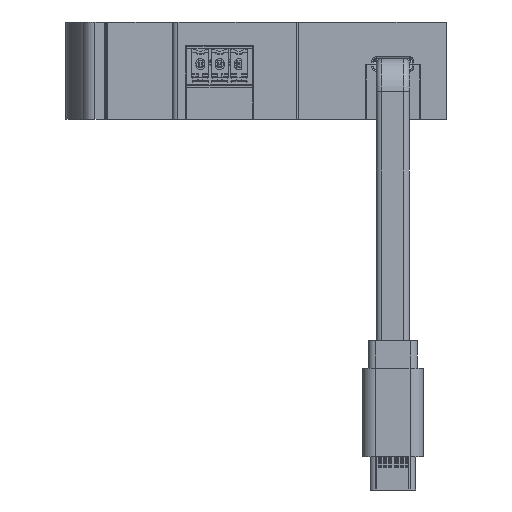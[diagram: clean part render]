
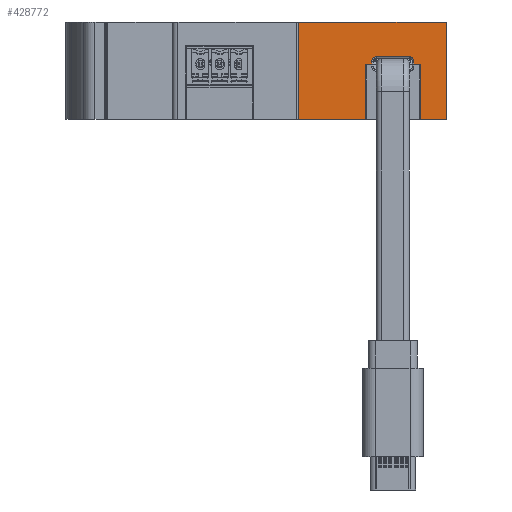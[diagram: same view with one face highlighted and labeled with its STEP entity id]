
A CAD part, left-side view. The second image highlights one B-rep face of the part: STEP entity #428772.
In plain terms, the highlighted planar face has unit normal (-1, 0, 0).
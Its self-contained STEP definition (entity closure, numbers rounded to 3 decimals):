
#762 = VECTOR ( 'NONE', #381776, 1000. ) ;
#11346 = PLANE ( 'NONE',  #403545 ) ;
#26357 = AXIS2_PLACEMENT_3D ( 'NONE', #82733, #121294, #149616 ) ;
#26709 = VECTOR ( 'NONE', #262943, 1000. ) ;
#30310 = VECTOR ( 'NONE', #194123, 1000. ) ;
#30504 = DIRECTION ( 'NONE',  ( 0., -1., 0. ) ) ;
#35222 = VERTEX_POINT ( 'NONE', #67899 ) ;
#36921 = ORIENTED_EDGE ( 'NONE', *, *, #435131, .T. ) ;
#43039 = VERTEX_POINT ( 'NONE', #337913 ) ;
#46509 = CIRCLE ( 'NONE', #26357, 0.8 ) ;
#48753 = EDGE_CURVE ( 'NONE', #335496, #43039, #302436, .T. ) ;
#49012 = VERTEX_POINT ( 'NONE', #363447 ) ;
#49424 = VERTEX_POINT ( 'NONE', #303869 ) ;
#54119 = CARTESIAN_POINT ( 'NONE',  ( -51.043, 1.442, 80.812 ) ) ;
#62291 = ORIENTED_EDGE ( 'NONE', *, *, #400945, .F. ) ;
#64865 = EDGE_CURVE ( 'NONE', #335496, #165393, #158288, .T. ) ;
#67899 = CARTESIAN_POINT ( 'NONE',  ( -51.043, 22.292, 87.912 ) ) ;
#70035 = EDGE_CURVE ( 'NONE', #356518, #250638, #269384, .T. ) ;
#71299 = EDGE_CURVE ( 'NONE', #49424, #311957, #401028, .T. ) ;
#74254 = CARTESIAN_POINT ( 'NONE',  ( -51.043, 8.242, 80.812 ) ) ;
#75723 = DIRECTION ( 'NONE',  ( 1., 0., 0. ) ) ;
#79592 = DIRECTION ( 'NONE',  ( 1., 0., 0. ) ) ;
#82733 = CARTESIAN_POINT ( 'NONE',  ( -51.043, 2.242, 80.812 ) ) ;
#85674 = CARTESIAN_POINT ( 'NONE',  ( -51.043, 0.242, 70.312 ) ) ;
#87003 = ORIENTED_EDGE ( 'NONE', *, *, #144691, .T. ) ;
#94822 = AXIS2_PLACEMENT_3D ( 'NONE', #74254, #75723, #108442 ) ;
#100772 = LINE ( 'NONE', #85674, #148457 ) ;
#107254 = LINE ( 'NONE', #340042, #762 ) ;
#108442 = DIRECTION ( 'NONE',  ( 0., 0., -1. ) ) ;
#117047 = LINE ( 'NONE', #227322, #26709 ) ;
#117214 = DIRECTION ( 'NONE',  ( 0., 0., 1. ) ) ;
#119941 = CARTESIAN_POINT ( 'NONE',  ( -51.043, 8.242, 81.612 ) ) ;
#121294 = DIRECTION ( 'NONE',  ( 1., 0., 0. ) ) ;
#121880 = LINE ( 'NONE', #364939, #265457 ) ;
#126360 = LINE ( 'NONE', #342668, #168969 ) ;
#129285 = CARTESIAN_POINT ( 'NONE',  ( -51.043, 0.242, 80.312 ) ) ;
#131001 = EDGE_CURVE ( 'NONE', #165393, #324637, #358982, .T. ) ;
#131984 = VECTOR ( 'NONE', #117214, 1000. ) ;
#140095 = LINE ( 'NONE', #399695, #156222 ) ;
#141393 = ORIENTED_EDGE ( 'NONE', *, *, #183783, .T. ) ;
#144691 = EDGE_CURVE ( 'NONE', #35222, #49424, #117047, .T. ) ;
#145489 = CARTESIAN_POINT ( 'NONE',  ( -51.043, 10.242, 70.312 ) ) ;
#148457 = VECTOR ( 'NONE', #360331, 1000. ) ;
#149616 = DIRECTION ( 'NONE',  ( 0., 0., -1. ) ) ;
#156222 = VECTOR ( 'NONE', #160691, 1000. ) ;
#158288 = LINE ( 'NONE', #357708, #131984 ) ;
#160691 = DIRECTION ( 'NONE',  ( 0., -1., 0. ) ) ;
#165393 = VERTEX_POINT ( 'NONE', #232176 ) ;
#167098 = CARTESIAN_POINT ( 'NONE',  ( -51.043, -4.408, 87.912 ) ) ;
#168969 = VECTOR ( 'NONE', #378363, 1000. ) ;
#176464 = ORIENTED_EDGE ( 'NONE', *, *, #357109, .T. ) ;
#183783 = EDGE_CURVE ( 'NONE', #326696, #49012, #107254, .T. ) ;
#191732 = DIRECTION ( 'NONE',  ( 0., 1., 0. ) ) ;
#194123 = DIRECTION ( 'NONE',  ( 0., 0., -1. ) ) ;
#194620 = CARTESIAN_POINT ( 'NONE',  ( -51.043, 5.242, 80.312 ) ) ;
#214896 = EDGE_CURVE ( 'NONE', #268168, #250638, #264791, .T. ) ;
#219786 = CARTESIAN_POINT ( 'NONE',  ( -51.043, 2.242, 81.612 ) ) ;
#225000 = VECTOR ( 'NONE', #30504, 1000. ) ;
#227322 = CARTESIAN_POINT ( 'NONE',  ( -51.043, 22.292, 87.912 ) ) ;
#232176 = CARTESIAN_POINT ( 'NONE',  ( -51.043, 9.042, 80.812 ) ) ;
#237523 = ORIENTED_EDGE ( 'NONE', *, *, #384592, .F. ) ;
#241071 = ORIENTED_EDGE ( 'NONE', *, *, #335077, .F. ) ;
#246446 = ORIENTED_EDGE ( 'NONE', *, *, #214896, .T. ) ;
#250638 = VERTEX_POINT ( 'NONE', #401308 ) ;
#255935 = CARTESIAN_POINT ( 'NONE',  ( -51.043, 22.292, 70.312 ) ) ;
#262943 = DIRECTION ( 'NONE',  ( 0., 0., -1. ) ) ;
#264791 = LINE ( 'NONE', #366433, #387103 ) ;
#265457 = VECTOR ( 'NONE', #403450, 1000. ) ;
#268168 = VERTEX_POINT ( 'NONE', #429604 ) ;
#268294 = FACE_OUTER_BOUND ( 'NONE', #398068, .T. ) ;
#269384 = LINE ( 'NONE', #329242, #30310 ) ;
#273203 = ORIENTED_EDGE ( 'NONE', *, *, #48753, .F. ) ;
#282980 = CARTESIAN_POINT ( 'NONE',  ( -51.043, 22.292, 87.912 ) ) ;
#293616 = EDGE_CURVE ( 'NONE', #43039, #311957, #121880, .T. ) ;
#299483 = DIRECTION ( 'NONE',  ( 0., -1., 0. ) ) ;
#302436 = LINE ( 'NONE', #194620, #334426 ) ;
#303869 = CARTESIAN_POINT ( 'NONE',  ( -51.043, 22.292, 70.312 ) ) ;
#311957 = VERTEX_POINT ( 'NONE', #145489 ) ;
#313853 = CARTESIAN_POINT ( 'NONE',  ( -51.043, 9.042, 80.312 ) ) ;
#317125 = DIRECTION ( 'NONE',  ( 0., 0., -1. ) ) ;
#324637 = VERTEX_POINT ( 'NONE', #119941 ) ;
#326696 = VERTEX_POINT ( 'NONE', #54119 ) ;
#328802 = ORIENTED_EDGE ( 'NONE', *, *, #71299, .T. ) ;
#329242 = CARTESIAN_POINT ( 'NONE',  ( -51.043, -4.408, 87.912 ) ) ;
#330851 = ORIENTED_EDGE ( 'NONE', *, *, #293616, .F. ) ;
#334426 = VECTOR ( 'NONE', #191732, 1000. ) ;
#335077 = EDGE_CURVE ( 'NONE', #268168, #421319, #100772, .T. ) ;
#335496 = VERTEX_POINT ( 'NONE', #313853 ) ;
#337913 = CARTESIAN_POINT ( 'NONE',  ( -51.043, 10.242, 80.312 ) ) ;
#340042 = CARTESIAN_POINT ( 'NONE',  ( -51.043, 1.442, 87.912 ) ) ;
#342668 = CARTESIAN_POINT ( 'NONE',  ( -51.043, 5.242, 80.312 ) ) ;
#356518 = VERTEX_POINT ( 'NONE', #167098 ) ;
#357109 = EDGE_CURVE ( 'NONE', #324637, #381954, #140095, .T. ) ;
#357708 = CARTESIAN_POINT ( 'NONE',  ( -51.043, 9.042, 87.912 ) ) ;
#358982 = CIRCLE ( 'NONE', #94822, 0.8 ) ;
#359870 = DIRECTION ( 'NONE',  ( 0., -1., 0. ) ) ;
#360331 = DIRECTION ( 'NONE',  ( 0., 0., 1. ) ) ;
#363447 = CARTESIAN_POINT ( 'NONE',  ( -51.043, 1.442, 80.312 ) ) ;
#364939 = CARTESIAN_POINT ( 'NONE',  ( -51.043, 10.242, 80.312 ) ) ;
#366433 = CARTESIAN_POINT ( 'NONE',  ( -51.043, 22.292, 70.312 ) ) ;
#374290 = VECTOR ( 'NONE', #359870, 1000. ) ;
#378363 = DIRECTION ( 'NONE',  ( 0., 1., 0. ) ) ;
#381776 = DIRECTION ( 'NONE',  ( 0., 0., -1. ) ) ;
#381954 = VERTEX_POINT ( 'NONE', #219786 ) ;
#384592 = EDGE_CURVE ( 'NONE', #35222, #356518, #394935, .T. ) ;
#387103 = VECTOR ( 'NONE', #299483, 1000. ) ;
#394935 = LINE ( 'NONE', #440274, #225000 ) ;
#398068 = EDGE_LOOP ( 'NONE', ( #36921, #141393, #62291, #241071, #246446, #424563, #237523, #87003, #328802, #330851, #273203, #410670, #420358, #176464 ) ) ;
#399695 = CARTESIAN_POINT ( 'NONE',  ( -51.043, 22.292, 81.612 ) ) ;
#400945 = EDGE_CURVE ( 'NONE', #421319, #49012, #126360, .T. ) ;
#401028 = LINE ( 'NONE', #255935, #374290 ) ;
#401308 = CARTESIAN_POINT ( 'NONE',  ( -51.043, -4.408, 70.312 ) ) ;
#403450 = DIRECTION ( 'NONE',  ( 0., 0., -1. ) ) ;
#403545 = AXIS2_PLACEMENT_3D ( 'NONE', #282980, #79592, #317125 ) ;
#410670 = ORIENTED_EDGE ( 'NONE', *, *, #64865, .T. ) ;
#420358 = ORIENTED_EDGE ( 'NONE', *, *, #131001, .T. ) ;
#421319 = VERTEX_POINT ( 'NONE', #129285 ) ;
#424563 = ORIENTED_EDGE ( 'NONE', *, *, #70035, .F. ) ;
#428772 = ADVANCED_FACE ( 'NONE', ( #268294 ), #11346, .F. ) ;
#429604 = CARTESIAN_POINT ( 'NONE',  ( -51.043, 0.242, 70.312 ) ) ;
#435131 = EDGE_CURVE ( 'NONE', #381954, #326696, #46509, .T. ) ;
#440274 = CARTESIAN_POINT ( 'NONE',  ( -51.043, 22.292, 87.912 ) ) ;
